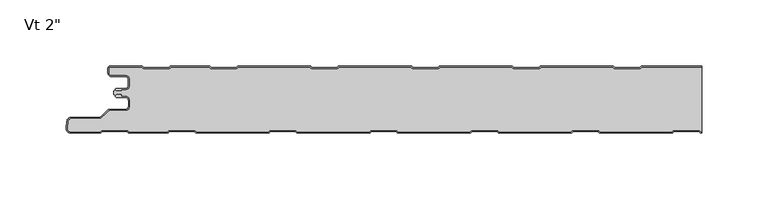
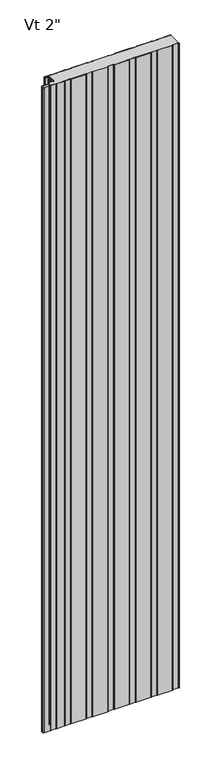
"""IFC4 building model written with IfcOpenShell, lengths in millimetres: plate geometry."""

from ifc_helpers import new_model, si_unit, point, frame, frame_2d, origin, origin_with_axes, place, context, project, spatial, polyline, circle_curve, trimmed, segment, composite_curve, outline, extrude, source, transform, mapped, element, save
from ifc_brep_helpers import plane_surface, cylinder_surface, revolved_surface, advanced_brep


def plate_cf051cfc(model_context):
    return source(origin(), model_context, "Body", "SolidModel", [
        extrude(outline(composite_curve([segment(polyline([(-220.9683, -22.4708833), (-221.9999998, -21.4391835), (-221.9999998, -19.0391835), (-220.9686882, -18.0078718)]), True, "CONTINUOUS"), segment(trimmed(circle_curve(frame_2d((-219.968691, -18.0078659)), 0.9999972), [point((-220.9686882, -18.0078718))], [point((-219.968691, -19.0078631))], True, "CARTESIAN"), True, "CONTINUOUS"), segment(polyline([(-219.968691, -19.0078631), (-215.9684873, -19.0078631), (-215.9684873, -18.0078686), (-213.2762775, -18.0078686)]), True, "CONTINUOUS"), segment(trimmed(circle_curve(frame_2d((-213.2762775, -14.7078729)), 3.2999957), [point((-213.2762775, -18.0078686))], [point((-209.9762818, -14.7078729))], True, "CARTESIAN"), True, "CONTINUOUS"), segment(polyline([(-209.9762818, -14.7078729), (-209.9762818, -10.3078817)]), True, "CONTINUOUS"), segment(trimmed(circle_curve(frame_2d((-213.2762777, -10.3078817)), 3.2999959), [point((-209.9762818, -10.3078817))], [point((-213.2762777, -7.0078858))], True, "CARTESIAN"), True, "CONTINUOUS"), segment(polyline([(-213.2762777, -7.0078858), (-223.6962562, -7.0078858)]), True, "CONTINUOUS"), segment(trimmed(circle_curve(frame_2d((-223.6962562, -5.2378916)), 1.7699942), [point((-223.6962562, -7.0078858))], [point((-225.4662504, -5.2378916))], False, "CARTESIAN"), True, "CONTINUOUS"), segment(polyline([(-225.4662504, -5.2378916), (-225.4662504, -1.0063443), (-200.9659738, -1.0063443), (-199.5803312, -2.2065834), (-180.2051649, -2.2065834), (-178.819532, -1.0063527), (-150.1661166, -1.0063527), (-148.7804836, -2.2065834), (-129.4053173, -2.2065834), (-128.0196844, -1.0063527), (-73.966269, -1.0063527), (-72.580636, -2.2065834), (-53.2054697, -2.2065834), (-51.8198368, -1.0063527), (2.2335786, -1.0063527), (3.6192116, -2.2065834), (22.9943779, -2.2065834), (24.3800108, -1.0063527), (78.4334262, -1.0063527), (79.8190592, -2.2065834), (99.1942255, -2.2065834), (100.5798584, -1.0063527), (154.6332738, -1.0063527), (156.0189068, -2.2065834), (175.3940731, -2.2065834), (176.779706, -1.0063527), (221.9999998, -1.0063527), (221.9999998, -49.7948673), (221.4405499, -49.7948673), (220.2403192, -48.5946366), (200.5209066, -48.5946366), (199.3206759, -49.7948673), (145.2405442, -49.7948673), (144.0403135, -48.5946366), (124.320901, -48.5946366), (123.1206703, -49.7948673), (69.0405385, -49.7948673), (67.8403078, -48.5946366), (48.1208953, -48.5946366), (46.9206646, -49.7948673), (-7.1594672, -49.7948673), (-8.3596979, -48.5946366), (-28.0791104, -48.5946366), (-29.2793411, -49.7948673), (-83.3594729, -49.7948673), (-84.5597036, -48.5946366), (-104.2791161, -48.5946366), (-105.4793468, -49.7948673), (-159.5594786, -49.7948673), (-160.7597093, -48.5946366), (-180.4791218, -48.5946366), (-181.6793525, -49.7948673), (-210.3594843, -49.7948673), (-211.559715, -48.5946366), (-231.2791275, -48.5946366), (-232.479096, -49.7946051), (-254.4521175, -49.7946051)]), True, "CONTINUOUS"), segment(trimmed(circle_curve(frame_2d((-254.4521175, -47.2243658)), 2.5702393), [point((-254.4521175, -49.7946051))], [point((-257.0125697, -47.0002802))], False, "CARTESIAN"), True, "CONTINUOUS"), segment(polyline([(-257.0125697, -47.0002802), (-256.5765707, -42.0184593)]), True, "CONTINUOUS"), segment(trimmed(circle_curve(frame_2d((-253.9198391, -42.4998499)), 2.6999926), [point((-256.5765707, -42.0184593))], [point((-253.9198391, -39.7998573))], False, "CARTESIAN"), True, "CONTINUOUS"), segment(polyline([(-253.9198391, -39.7998573), (-231.8247094, -39.7998573), (-226.3226383, -34.2977862)]), True, "CONTINUOUS"), segment(trimmed(circle_curve(frame_2d((-225.1205606, -35.4998639)), 1.6999946), [point((-226.3226383, -34.2977862))], [point((-225.1205606, -33.7998693))], False, "CARTESIAN"), True, "CONTINUOUS"), segment(polyline([(-225.1205606, -33.7998693), (-213.3096715, -33.7998693)]), True, "CONTINUOUS"), segment(trimmed(circle_curve(frame_2d((-213.3096715, -30.449874)), 3.3499953), [point((-213.3096715, -33.7998693))], [point((-209.9596762, -30.449874))], True, "CARTESIAN"), True, "CONTINUOUS"), segment(polyline([(-209.9596762, -30.449874), (-209.9596762, -26.0498828)]), True, "CONTINUOUS"), segment(trimmed(circle_curve(frame_2d((-213.3096715, -26.0498828)), 3.3499953), [point((-209.9596762, -26.0498828))], [point((-213.3096715, -22.6998875))], True, "CARTESIAN"), True, "CONTINUOUS"), segment(polyline([(-213.3096715, -22.6998875), (-216.0087826, -22.6998875), (-216.0087826, -21.3014086), (-219.767176, -21.3014086)]), True, "CONTINUOUS"), segment(trimmed(circle_curve(frame_2d((-219.7686906, -22.5014053)), 1.1999976), [point((-219.767176, -21.3014086))], [point((-220.9683, -22.4708833))], True, "CARTESIAN"), True, "CONTINUOUS")], self_intersect=False)), origin_with_axes(), (0.0, 0.0, 1.0), 2400.0),
        advanced_brep(
        [(-219.9686911, -17.0015243, 2400.0), (-220.9686883, -18.0015275, 2400.0), (-219.9686911, -19.0015188, 2400.0), (-215.9684874, -19.0015188, 2400.0), (-215.9684874, -18.0015243, 2400.0), (-213.2762776, -18.0015243, 2400.0), (-209.9762819, -14.7015286, 2400.0), (-209.9762819, -10.3015374, 2400.0), (-213.2762774, -7.0015419, 2400.0), (-223.6962563, -7.0015419, 2400.0), (-225.4662505, -5.2315477, 2400.0), (-225.4662505, -1.0, 2400.0), (-200.9659739, -1.0, 2400.0), (-199.5803313, -2.2002391, 2400.0), (-180.205165, -2.2002391, 2400.0), (-178.819532, -1.0000084, 2400.0), (-150.1661166, -1.0000084, 2400.0), (-148.7804837, -2.2002391, 2400.0), (-129.4053174, -2.2002391, 2400.0), (-128.0196844, -1.0000084, 2400.0), (-73.966269, -1.0000084, 2400.0), (-72.5806361, -2.2002391, 2400.0), (-53.2054698, -2.2002391, 2400.0), (-51.8198368, -1.0000084, 2400.0), (2.2335786, -1.0000084, 2400.0), (3.6192115, -2.2002391, 2400.0), (22.9943778, -2.2002391, 2400.0), (24.3800108, -1.0000084, 2400.0), (78.4334262, -1.0000084, 2400.0), (79.8190591, -2.2002391, 2400.0), (99.1942254, -2.2002391, 2400.0), (100.5798584, -1.0000084, 2400.0), (154.6332738, -1.0000084, 2400.0), (156.0189067, -2.2002391, 2400.0), (175.394073, -2.2002391, 2400.0), (176.779706, -1.0000084, 2400.0), (221.9999998, -1.0000084, 2400.0), (221.9999998, -8.4e-06, 2400.0), (176.9288571, -8.4e-06, 2400.0), (176.0122402, -0.3417969, 2400.0), (175.0211926, -1.2002391, 2400.0), (156.3917872, -1.2002391, 2400.0), (155.4007395, -0.3417969, 2400.0), (154.4841226, -8.4e-06, 2400.0), (100.7290095, -8.4e-06, 2400.0), (99.8123926, -0.3417969, 2400.0), (98.821345, -1.2002391, 2400.0), (80.1919396, -1.2002391, 2400.0), (79.2008919, -0.3417969, 2400.0), (78.284275, -8.4e-06, 2400.0), (24.5291619, -8.4e-06, 2400.0), (23.612545, -0.3417969, 2400.0), (22.6214974, -1.2002391, 2400.0), (3.992092, -1.2002391, 2400.0), (3.0010443, -0.3417969, 2400.0), (2.0844274, -8.4e-06, 2400.0), (-51.6706857, -8.4e-06, 2400.0), (-52.5873026, -0.3417969, 2400.0), (-53.5783502, -1.2002391, 2400.0), (-72.2077556, -1.2002391, 2400.0), (-73.1988033, -0.3417969, 2400.0), (-74.1154202, -8.4e-06, 2400.0), (-127.8705333, -8.4e-06, 2400.0), (-128.7871502, -0.3417969, 2400.0), (-129.7781978, -1.2002391, 2400.0), (-148.4076032, -1.2002391, 2400.0), (-149.3986509, -0.3417969, 2400.0), (-150.3152678, -8.4e-06, 2400.0), (-178.6703809, -8.4e-06, 2400.0), (-179.5869978, -0.3417969, 2400.0), (-180.5780454, -1.2002391, 2400.0), (-199.2074508, -1.2002391, 2400.0), (-200.1984985, -0.3417969, 2400.0), (-201.1152068, -8.4e-06, 2400.0), (-225.0662544, 0.0, 2400.0), (-226.4662505, -1.3999962, 2400.0), (-226.4662505, -5.2315477, 2400.0), (-223.6962563, -8.0015419, 2400.0), (-213.2762774, -8.0015419, 2400.0), (-210.9762819, -10.3015374, 2400.0), (-210.9762819, -14.7015286, 2400.0), (-213.2762776, -17.0015243, 2400.0), (-219.9686911, -17.0015243, 0.0), (-213.2762776, -17.0015243, 0.0), (-210.9762819, -14.7015286, 0.0), (-210.9762819, -10.3015374, 0.0), (-213.2762774, -8.0015419, 0.0), (-223.6962563, -8.0015419, 0.0), (-226.4662505, -5.2315477, 0.0), (-226.4662505, -1.3999962, 0.0), (-225.0662544, 0.0, 0.0), (-201.1151154, 0.0, 0.0), (-200.1984985, -0.3417969, 0.0), (-199.2074508, -1.2002391, 0.0), (-180.5780454, -1.2002391, 0.0), (-179.5869978, -0.3417969, 0.0), (-178.6703809, -8.4e-06, 0.0), (-150.3152678, -8.4e-06, 0.0), (-149.3986509, -0.3417969, 0.0), (-148.4076032, -1.2002391, 0.0), (-129.7781978, -1.2002391, 0.0), (-128.7871502, -0.3417969, 0.0), (-127.8705333, -8.4e-06, 0.0), (-74.1154202, -8.4e-06, 0.0), (-73.1988033, -0.3417969, 0.0), (-72.2077556, -1.2002391, 0.0), (-53.5783502, -1.2002391, 0.0), (-52.5873026, -0.3417969, 0.0), (-51.6706857, -8.4e-06, 0.0), (2.0844274, -8.4e-06, 0.0), (3.0010443, -0.3417969, 0.0), (3.992092, -1.2002391, 0.0), (22.6214974, -1.2002391, 0.0), (23.612545, -0.3417969, 0.0), (24.5291619, -8.4e-06, 0.0), (78.284275, -8.4e-06, 0.0), (79.2008919, -0.3417969, 0.0), (80.1919396, -1.2002391, 0.0), (98.821345, -1.2002391, 0.0), (99.8123926, -0.3417969, 0.0), (100.7290095, -8.4e-06, 0.0), (154.4841226, -8.4e-06, 0.0), (155.4007395, -0.3417969, 0.0), (156.3917872, -1.2002391, 0.0), (175.0211926, -1.2002391, 0.0), (176.0122402, -0.3417969, 0.0), (176.9288571, -8.4e-06, 0.0), (221.9999998, -8.4e-06, 0.0), (221.9999998, -1.0000084, 0.0), (176.779706, -1.0000084, 0.0), (175.394073, -2.2002391, 0.0), (156.0189067, -2.2002391, 0.0), (154.6332738, -1.0000084, 0.0), (100.5798584, -1.0000084, 0.0), (99.1942254, -2.2002391, 0.0), (79.8190591, -2.2002391, 0.0), (78.4334262, -1.0000084, 0.0), (24.3800108, -1.0000084, 0.0), (22.9943778, -2.2002391, 0.0), (3.6192115, -2.2002391, 0.0), (2.2335786, -1.0000084, 0.0), (-51.8198368, -1.0000084, 0.0), (-53.2054698, -2.2002391, 0.0), (-72.5806361, -2.2002391, 0.0), (-73.966269, -1.0000084, 0.0), (-128.0196844, -1.0000084, 0.0), (-129.4053174, -2.2002391, 0.0), (-148.7804837, -2.2002391, 0.0), (-150.1661166, -1.0000084, 0.0), (-178.819532, -1.0000084, 0.0), (-180.205165, -2.2002391, 0.0), (-199.5803313, -2.2002391, 0.0), (-200.9659739, -1.0, 0.0), (-225.4662505, -1.0, 0.0), (-225.4662505, -5.2315477, 0.0), (-223.6962563, -7.0015419, 0.0), (-213.2762774, -7.0015419, 0.0), (-209.9762819, -10.3015374, 0.0), (-209.9762819, -14.7015286, 0.0), (-213.2762776, -18.0015243, 0.0), (-215.9684874, -18.0015243, 0.0), (-215.9684874, -19.0015188, 0.0), (-219.9686911, -19.0015188, 0.0), (-220.9686883, -18.0015275, 0.0)],
        [
            (0, 1, circle_curve(frame((-219.9686911, -18.0015215, 2400.0), z_axis=(0.0, 0.0, 1.0), x_axis=(1.0, 0.0, 0.0)), 0.9999973)),
            (1, 2, circle_curve(frame((-219.9686911, -18.0015216, 2400.0), z_axis=(0.0, 0.0, 1.0), x_axis=(1.0, 0.0, 0.0)), 0.9999972)),
            (2, 3),
            (3, 4),
            (4, 5),
            (5, 6, circle_curve(frame((-213.2762776, -14.7015286, 2400.0), z_axis=(0.0, 0.0, 1.0), x_axis=(1.0, 0.0, 0.0)), 3.2999957)),
            (6, 7),
            (7, 8, circle_curve(frame((-213.2762774, -10.3015374, 2400.0), z_axis=(0.0, 0.0, 1.0), x_axis=(1.0, 0.0, 0.0)), 3.2999955)),
            (8, 9),
            (9, 10, circle_curve(frame((-223.6962563, -5.2315477, 2400.0), z_axis=(0.0, 0.0, -1.0), x_axis=(1.0, 0.0, 0.0)), 1.7699942)),
            (10, 11),
            (11, 12),
            (12, 13),
            (13, 14),
            (14, 15),
            (15, 16),
            (16, 17),
            (17, 18),
            (18, 19),
            (19, 20),
            (20, 21),
            (21, 22),
            (22, 23),
            (23, 24),
            (24, 25),
            (25, 26),
            (26, 27),
            (27, 28),
            (28, 29),
            (29, 30),
            (30, 31),
            (31, 32),
            (32, 33),
            (33, 34),
            (34, 35),
            (35, 36),
            (36, 37),
            (37, 38),
            (38, 39, circle_curve(frame((176.9288571, -1.4000056, 2400.0), z_axis=(0.0, 0.0, 1.0), x_axis=(1.0, 0.0, 0.0)), 1.3999972)),
            (39, 40),
            (40, 41),
            (41, 42),
            (42, 43, circle_curve(frame((154.4841226, -1.4000056, 2400.0), z_axis=(0.0, 0.0, 1.0), x_axis=(1.0, 0.0, 0.0)), 1.3999972)),
            (43, 44),
            (44, 45, circle_curve(frame((100.7290095, -1.4000056, 2400.0), z_axis=(0.0, 0.0, 1.0), x_axis=(1.0, 0.0, 0.0)), 1.3999972)),
            (45, 46),
            (46, 47),
            (47, 48),
            (48, 49, circle_curve(frame((78.284275, -1.4000056, 2400.0), z_axis=(0.0, 0.0, 1.0), x_axis=(1.0, 0.0, 0.0)), 1.3999972)),
            (49, 50),
            (50, 51, circle_curve(frame((24.5291619, -1.4000056, 2400.0), z_axis=(0.0, 0.0, 1.0), x_axis=(1.0, 0.0, 0.0)), 1.3999972)),
            (51, 52),
            (52, 53),
            (53, 54),
            (54, 55, circle_curve(frame((2.0844274, -1.4000056, 2400.0), z_axis=(0.0, 0.0, 1.0), x_axis=(1.0, 0.0, 0.0)), 1.3999972)),
            (55, 56),
            (56, 57, circle_curve(frame((-51.6706857, -1.4000056, 2400.0), z_axis=(0.0, 0.0, 1.0), x_axis=(1.0, 0.0, 0.0)), 1.3999972)),
            (57, 58),
            (58, 59),
            (59, 60),
            (60, 61, circle_curve(frame((-74.1154202, -1.4000056, 2400.0), z_axis=(0.0, 0.0, 1.0), x_axis=(1.0, 0.0, 0.0)), 1.3999972)),
            (61, 62),
            (62, 63, circle_curve(frame((-127.8705333, -1.4000056, 2400.0), z_axis=(0.0, 0.0, 1.0), x_axis=(1.0, 0.0, 0.0)), 1.3999972)),
            (63, 64),
            (64, 65),
            (65, 66),
            (66, 67, circle_curve(frame((-150.3152678, -1.4000056, 2400.0), z_axis=(0.0, 0.0, 1.0), x_axis=(1.0, 0.0, 0.0)), 1.3999972)),
            (67, 68),
            (68, 69, circle_curve(frame((-178.6703809, -1.4000056, 2400.0), z_axis=(0.0, 0.0, 1.0), x_axis=(1.0, 0.0, 0.0)), 1.3999972)),
            (69, 70),
            (70, 71),
            (71, 72),
            (72, 73, circle_curve(frame((-201.1151154, -1.4000056, 2400.0), z_axis=(0.0, 0.0, 1.0), x_axis=(1.0, 0.0, 0.0)), 1.3999972)),
            (73, 74),
            (74, 75, circle_curve(frame((-225.0662544, -1.3999962, 2400.0), z_axis=(0.0, 0.0, 1.0), x_axis=(1.0, 0.0, 0.0)), 1.3999962)),
            (75, 76),
            (76, 77, circle_curve(frame((-223.6962563, -5.2315477, 2400.0), z_axis=(0.0, 0.0, 1.0), x_axis=(1.0, 0.0, 0.0)), 2.7699942)),
            (77, 78),
            (78, 79, circle_curve(frame((-213.2762774, -10.3015374, 2400.0), z_axis=(0.0, 0.0, -1.0), x_axis=(1.0, 0.0, 0.0)), 2.2999955)),
            (79, 80),
            (80, 81, circle_curve(frame((-213.2762776, -14.7015286, 2400.0), z_axis=(0.0, 0.0, -1.0), x_axis=(1.0, 0.0, 0.0)), 2.2999957)),
            (81, 0),
            (82, 83),
            (83, 84, circle_curve(frame((-213.2762776, -14.7015286, 0.0), z_axis=(0.0, 0.0, 1.0), x_axis=(1.0, 0.0, 0.0)), 2.2999957)),
            (84, 85),
            (85, 86, circle_curve(frame((-213.2762774, -10.3015374, 0.0), z_axis=(0.0, 0.0, 1.0), x_axis=(1.0, 0.0, 0.0)), 2.2999955)),
            (86, 87),
            (87, 88, circle_curve(frame((-223.6962563, -5.2315477, 0.0), z_axis=(0.0, 0.0, -1.0), x_axis=(1.0, 0.0, 0.0)), 2.7699942)),
            (88, 89),
            (89, 90, circle_curve(frame((-225.0662544, -1.3999962, 0.0), z_axis=(0.0, 0.0, -1.0), x_axis=(1.0, 0.0, 0.0)), 1.3999962)),
            (90, 91),
            (91, 92, circle_curve(frame((-201.1151154, -1.4000056, 0.0), z_axis=(0.0, 0.0, -1.0), x_axis=(1.0, 0.0, 0.0)), 1.3999972)),
            (92, 93),
            (93, 94),
            (94, 95),
            (95, 96, circle_curve(frame((-178.6703809, -1.4000056, 0.0), z_axis=(0.0, 0.0, -1.0), x_axis=(1.0, 0.0, 0.0)), 1.3999972)),
            (96, 97),
            (97, 98, circle_curve(frame((-150.3152678, -1.4000056, 0.0), z_axis=(0.0, 0.0, -1.0), x_axis=(1.0, 0.0, 0.0)), 1.3999972)),
            (98, 99),
            (99, 100),
            (100, 101),
            (101, 102, circle_curve(frame((-127.8705333, -1.4000056, 0.0), z_axis=(0.0, 0.0, -1.0), x_axis=(1.0, 0.0, 0.0)), 1.3999972)),
            (102, 103),
            (103, 104, circle_curve(frame((-74.1154202, -1.4000056, 0.0), z_axis=(0.0, 0.0, -1.0), x_axis=(1.0, 0.0, 0.0)), 1.3999972)),
            (104, 105),
            (105, 106),
            (106, 107),
            (107, 108, circle_curve(frame((-51.6706857, -1.4000056, 0.0), z_axis=(0.0, 0.0, -1.0), x_axis=(1.0, 0.0, 0.0)), 1.3999972)),
            (108, 109),
            (109, 110, circle_curve(frame((2.0844274, -1.4000056, 0.0), z_axis=(0.0, 0.0, -1.0), x_axis=(1.0, 0.0, 0.0)), 1.3999972)),
            (110, 111),
            (111, 112),
            (112, 113),
            (113, 114, circle_curve(frame((24.5291619, -1.4000056, 0.0), z_axis=(0.0, 0.0, -1.0), x_axis=(1.0, 0.0, 0.0)), 1.3999972)),
            (114, 115),
            (115, 116, circle_curve(frame((78.284275, -1.4000056, 0.0), z_axis=(0.0, 0.0, -1.0), x_axis=(1.0, 0.0, 0.0)), 1.3999972)),
            (116, 117),
            (117, 118),
            (118, 119),
            (119, 120, circle_curve(frame((100.7290095, -1.4000056, 0.0), z_axis=(0.0, 0.0, -1.0), x_axis=(1.0, 0.0, 0.0)), 1.3999972)),
            (120, 121),
            (121, 122, circle_curve(frame((154.4841226, -1.4000056, 0.0), z_axis=(0.0, 0.0, -1.0), x_axis=(1.0, 0.0, 0.0)), 1.3999972)),
            (122, 123),
            (123, 124),
            (124, 125),
            (125, 126, circle_curve(frame((176.9288571, -1.4000056, 0.0), z_axis=(0.0, 0.0, -1.0), x_axis=(1.0, 0.0, 0.0)), 1.3999972)),
            (126, 127),
            (127, 128),
            (128, 129),
            (129, 130),
            (130, 131),
            (131, 132),
            (132, 133),
            (133, 134),
            (134, 135),
            (135, 136),
            (136, 137),
            (137, 138),
            (138, 139),
            (139, 140),
            (140, 141),
            (141, 142),
            (142, 143),
            (143, 144),
            (144, 145),
            (145, 146),
            (146, 147),
            (147, 148),
            (148, 149),
            (149, 150),
            (150, 151),
            (151, 152),
            (152, 153),
            (153, 154),
            (154, 155, circle_curve(frame((-223.6962563, -5.2315477, 0.0), z_axis=(0.0, 0.0, 1.0), x_axis=(1.0, 0.0, 0.0)), 1.7699942)),
            (155, 156),
            (156, 157, circle_curve(frame((-213.2762774, -10.3015374, 0.0), z_axis=(0.0, 0.0, -1.0), x_axis=(1.0, 0.0, 0.0)), 3.2999955)),
            (157, 158),
            (158, 159, circle_curve(frame((-213.2762776, -14.7015286, 0.0), z_axis=(0.0, 0.0, -1.0), x_axis=(1.0, 0.0, 0.0)), 3.2999957)),
            (159, 160),
            (160, 161),
            (161, 162),
            (162, 163, circle_curve(frame((-219.9686911, -18.0015216, 0.0), z_axis=(0.0, 0.0, -1.0), x_axis=(1.0, 0.0, 0.0)), 0.9999972)),
            (163, 82, circle_curve(frame((-219.9686911, -18.0015215, 0.0), z_axis=(0.0, 0.0, -1.0), x_axis=(1.0, 0.0, 0.0)), 0.9999973)),
            (36, 128),
            (127, 37),
            (81, 83),
            (82, 0),
            (80, 84),
            (79, 85),
            (78, 86),
            (77, 87),
            (76, 88),
            (75, 89),
            (74, 90),
            (73, 91),
            (72, 92),
            (71, 93),
            (70, 94),
            (69, 95),
            (68, 96),
            (67, 97),
            (66, 98),
            (65, 99),
            (64, 100),
            (63, 101),
            (62, 102),
            (61, 103),
            (60, 104),
            (59, 105),
            (58, 106),
            (57, 107),
            (56, 108),
            (55, 109),
            (54, 110),
            (53, 111),
            (52, 112),
            (51, 113),
            (50, 114),
            (49, 115),
            (48, 116),
            (47, 117),
            (46, 118),
            (45, 119),
            (44, 120),
            (43, 121),
            (42, 122),
            (41, 123),
            (40, 124),
            (39, 125),
            (38, 126),
            (35, 129),
            (34, 130),
            (33, 131),
            (32, 132),
            (31, 133),
            (30, 134),
            (29, 135),
            (28, 136),
            (27, 137),
            (26, 138),
            (25, 139),
            (24, 140),
            (23, 141),
            (22, 142),
            (21, 143),
            (20, 144),
            (19, 145),
            (18, 146),
            (17, 147),
            (16, 148),
            (15, 149),
            (14, 150),
            (13, 151),
            (12, 152),
            (11, 153),
            (10, 154),
            (9, 155),
            (8, 156),
            (7, 157),
            (6, 158),
            (5, 159),
            (4, 160),
            (3, 161),
            (2, 162),
            (1, 163),
        ],
        [
            plane_surface(frame((286.0000002, -8.4e-06, 2400.0), z_axis=(0.0, 0.0, 1.0), x_axis=(0.0, 1.0, 0.0))),
            plane_surface(frame((286.0000002, -8.4e-06, 0.0), z_axis=(0.0, 0.0, -1.0), x_axis=(0.0, 1.0, 0.0))),
            plane_surface(frame((221.9999998, -60.8000084, 2400.0), z_axis=(1.0, 0.0, 0.0), x_axis=(0.0, 0.0, -1.0))),
            plane_surface(frame((-219.9686911, -17.0015243, 2400.0), z_axis=(0.0, 1.0, 0.0), x_axis=(0.0, 0.0, -1.0))),
            revolved_surface(polyline([(-210.97628189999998, -14.7015286, 0.0), (-210.97628189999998, -14.7015286, 2400.0)]), (-213.2762776, -14.7015286, 2400.0), (0.0, 0.0, -1.0)),
            plane_surface(frame((-210.9762819, -14.7015286, 2400.0), z_axis=(-1.0, 0.0, 0.0), x_axis=(0.0, 0.0, -1.0))),
            revolved_surface(polyline([(-210.9762819, -10.3015374, 0.0), (-210.9762819, -10.3015374, 2400.0)]), (-213.2762774, -10.3015374, 2400.0), (0.0, 0.0, -1.0)),
            plane_surface(frame((-213.2762774, -8.0015419, 2400.0), z_axis=(0.0, -1.0, 0.0), x_axis=(0.0, 0.0, -1.0))),
            cylinder_surface(frame((-223.6962563, -5.2315477, 2400.0), z_axis=(0.0, 0.0, 1.0), x_axis=(1.0, 0.0, 0.0)), 2.7699942),
            plane_surface(frame((-226.4662505, -5.2315477, 2400.0), z_axis=(-1.0, 0.0, 0.0), x_axis=(0.0, 0.0, -1.0))),
            cylinder_surface(frame((-225.0662544, -1.3999962, 2400.0), z_axis=(0.0, 0.0, 1.0), x_axis=(1.0, 0.0, 0.0)), 1.3999962),
            plane_surface(frame((-225.0662544, 0.0, 2400.0), z_axis=(0.0, 1.0, 0.0), x_axis=(0.0, 0.0, -1.0))),
            cylinder_surface(frame((-201.1151154, -1.4000056, 2400.0), z_axis=(0.0, 0.0, 1.0), x_axis=(1.0, 0.0, 0.0)), 1.3999972),
            plane_surface(frame((-200.1984985, -0.3417969, 2400.0), z_axis=(0.6547276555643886, 0.755864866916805, 0.0), x_axis=(0.0, 0.0, -1.0))),
            plane_surface(frame((-189.8927481, -1.2002391, 2400.0), z_axis=(0.0, 1.0, 0.0), x_axis=(0.0, 0.0, -1.0))),
            plane_surface(frame((-180.5780454, -1.2002391, 2400.0), z_axis=(-0.6547276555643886, 0.755864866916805, 0.0), x_axis=(0.0, 0.0, -1.0))),
            cylinder_surface(frame((-178.6703809, -1.4000056, 2400.0), z_axis=(0.0, 0.0, 1.0), x_axis=(1.0, 0.0, 0.0)), 1.3999972),
            plane_surface(frame((-178.6703809, -8.4e-06, 2400.0), z_axis=(0.0, 1.0, 0.0), x_axis=(0.0, 0.0, -1.0))),
            cylinder_surface(frame((-150.3152678, -1.4000056, 2400.0), z_axis=(0.0, 0.0, 1.0), x_axis=(1.0, 0.0, 0.0)), 1.3999972),
            plane_surface(frame((-149.3986509, -0.3417969, 2400.0), z_axis=(0.6547276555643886, 0.755864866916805, 0.0), x_axis=(0.0, 0.0, -1.0))),
            plane_surface(frame((-139.0929005, -1.2002391, 2400.0), z_axis=(0.0, 1.0, 0.0), x_axis=(0.0, 0.0, -1.0))),
            plane_surface(frame((-129.7781978, -1.2002391, 2400.0), z_axis=(-0.6547276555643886, 0.755864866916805, 0.0), x_axis=(0.0, 0.0, -1.0))),
            cylinder_surface(frame((-127.8705333, -1.4000056, 2400.0), z_axis=(0.0, 0.0, 1.0), x_axis=(1.0, 0.0, 0.0)), 1.3999972),
            plane_surface(frame((-127.8705333, -8.4e-06, 2400.0), z_axis=(0.0, 1.0, 0.0), x_axis=(0.0, 0.0, -1.0))),
            cylinder_surface(frame((-74.1154202, -1.4000056, 2400.0), z_axis=(0.0, 0.0, 1.0), x_axis=(1.0, 0.0, 0.0)), 1.3999972),
            plane_surface(frame((-73.1988033, -0.3417969, 2400.0), z_axis=(0.6547276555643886, 0.755864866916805, 0.0), x_axis=(0.0, 0.0, -1.0))),
            plane_surface(frame((-62.8930529, -1.2002391, 2400.0), z_axis=(0.0, 1.0, 0.0), x_axis=(0.0, 0.0, -1.0))),
            plane_surface(frame((-53.5783502, -1.2002391, 2400.0), z_axis=(-0.6547276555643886, 0.755864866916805, 0.0), x_axis=(0.0, 0.0, -1.0))),
            cylinder_surface(frame((-51.6706857, -1.4000056, 2400.0), z_axis=(0.0, 0.0, 1.0), x_axis=(1.0, 0.0, 0.0)), 1.3999972),
            plane_surface(frame((-51.6706857, -8.4e-06, 2400.0), z_axis=(0.0, 1.0, 0.0), x_axis=(0.0, 0.0, -1.0))),
            cylinder_surface(frame((2.0844274, -1.4000056, 2400.0), z_axis=(0.0, 0.0, 1.0), x_axis=(1.0, 0.0, 0.0)), 1.3999972),
            plane_surface(frame((3.0010443, -0.3417969, 2400.0), z_axis=(0.6547276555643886, 0.755864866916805, 0.0), x_axis=(0.0, 0.0, -1.0))),
            plane_surface(frame((13.3067947, -1.2002391, 2400.0), z_axis=(0.0, 1.0, 0.0), x_axis=(0.0, 0.0, -1.0))),
            plane_surface(frame((22.6214974, -1.2002391, 2400.0), z_axis=(-0.6547276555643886, 0.755864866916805, 0.0), x_axis=(0.0, 0.0, -1.0))),
            cylinder_surface(frame((24.5291619, -1.4000056, 2400.0), z_axis=(0.0, 0.0, 1.0), x_axis=(1.0, 0.0, 0.0)), 1.3999972),
            plane_surface(frame((24.5291619, -8.4e-06, 2400.0), z_axis=(0.0, 1.0, 0.0), x_axis=(0.0, 0.0, -1.0))),
            cylinder_surface(frame((78.284275, -1.4000056, 2400.0), z_axis=(0.0, 0.0, 1.0), x_axis=(1.0, 0.0, 0.0)), 1.3999972),
            plane_surface(frame((79.2008919, -0.3417969, 2400.0), z_axis=(0.6547276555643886, 0.755864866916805, 0.0), x_axis=(0.0, 0.0, -1.0))),
            plane_surface(frame((89.5066423, -1.2002391, 2400.0), z_axis=(0.0, 1.0, 0.0), x_axis=(0.0, 0.0, -1.0))),
            plane_surface(frame((98.821345, -1.2002391, 2400.0), z_axis=(-0.6547276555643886, 0.755864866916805, 0.0), x_axis=(0.0, 0.0, -1.0))),
            cylinder_surface(frame((100.7290095, -1.4000056, 2400.0), z_axis=(0.0, 0.0, 1.0), x_axis=(1.0, 0.0, 0.0)), 1.3999972),
            plane_surface(frame((100.7290095, -8.4e-06, 2400.0), z_axis=(0.0, 1.0, 0.0), x_axis=(0.0, 0.0, -1.0))),
            cylinder_surface(frame((154.4841226, -1.4000056, 2400.0), z_axis=(0.0, 0.0, 1.0), x_axis=(1.0, 0.0, 0.0)), 1.3999972),
            plane_surface(frame((155.4007395, -0.3417969, 2400.0), z_axis=(0.6547276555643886, 0.755864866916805, 0.0), x_axis=(0.0, 0.0, -1.0))),
            plane_surface(frame((165.7064899, -1.2002391, 2400.0), z_axis=(0.0, 1.0, 0.0), x_axis=(0.0, 0.0, -1.0))),
            plane_surface(frame((175.0211926, -1.2002391, 2400.0), z_axis=(-0.6547276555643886, 0.755864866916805, 0.0), x_axis=(0.0, 0.0, -1.0))),
            cylinder_surface(frame((176.9288571, -1.4000056, 2400.0), z_axis=(0.0, 0.0, 1.0), x_axis=(1.0, 0.0, 0.0)), 1.3999972),
            plane_surface(frame((176.9288571, -8.4e-06, 2400.0), z_axis=(0.0, 1.0, 0.0), x_axis=(0.0, 0.0, -1.0))),
            plane_surface(frame((230.8331214, -1.0000084, 2400.0), z_axis=(0.0, -1.0, 0.0), x_axis=(0.0, 0.0, -1.0))),
            plane_surface(frame((176.779706, -1.0000084, 2400.0), z_axis=(0.6547276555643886, -0.755864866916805, 0.0), x_axis=(0.0, 0.0, -1.0))),
            plane_surface(frame((175.394073, -2.2002391, 2400.0), z_axis=(0.0, -1.0, 0.0), x_axis=(0.0, 0.0, -1.0))),
            plane_surface(frame((156.0189067, -2.2002391, 2400.0), z_axis=(-0.6547276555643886, -0.755864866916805, 0.0), x_axis=(0.0, 0.0, -1.0))),
            plane_surface(frame((154.6332738, -1.0000084, 2400.0), z_axis=(0.0, -1.0, 0.0), x_axis=(0.0, 0.0, -1.0))),
            plane_surface(frame((100.5798584, -1.0000084, 2400.0), z_axis=(0.6547276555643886, -0.755864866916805, 0.0), x_axis=(0.0, 0.0, -1.0))),
            plane_surface(frame((99.1942254, -2.2002391, 2400.0), z_axis=(0.0, -1.0, 0.0), x_axis=(0.0, 0.0, -1.0))),
            plane_surface(frame((79.8190591, -2.2002391, 2400.0), z_axis=(-0.6547276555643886, -0.755864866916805, 0.0), x_axis=(0.0, 0.0, -1.0))),
            plane_surface(frame((78.4334262, -1.0000084, 2400.0), z_axis=(0.0, -1.0, 0.0), x_axis=(0.0, 0.0, -1.0))),
            plane_surface(frame((24.3800108, -1.0000084, 2400.0), z_axis=(0.6547276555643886, -0.755864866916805, 0.0), x_axis=(0.0, 0.0, -1.0))),
            plane_surface(frame((22.9943778, -2.2002391, 2400.0), z_axis=(0.0, -1.0, 0.0), x_axis=(0.0, 0.0, -1.0))),
            plane_surface(frame((3.6192115, -2.2002391, 2400.0), z_axis=(-0.6547276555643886, -0.755864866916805, 0.0), x_axis=(0.0, 0.0, -1.0))),
            plane_surface(frame((2.2335786, -1.0000084, 2400.0), z_axis=(0.0, -1.0, 0.0), x_axis=(0.0, 0.0, -1.0))),
            plane_surface(frame((-51.8198368, -1.0000084, 2400.0), z_axis=(0.6547276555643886, -0.755864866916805, 0.0), x_axis=(0.0, 0.0, -1.0))),
            plane_surface(frame((-53.2054698, -2.2002391, 2400.0), z_axis=(0.0, -1.0, 0.0), x_axis=(0.0, 0.0, -1.0))),
            plane_surface(frame((-72.5806361, -2.2002391, 2400.0), z_axis=(-0.6547276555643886, -0.755864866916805, 0.0), x_axis=(0.0, 0.0, -1.0))),
            plane_surface(frame((-73.966269, -1.0000084, 2400.0), z_axis=(0.0, -1.0, 0.0), x_axis=(0.0, 0.0, -1.0))),
            plane_surface(frame((-128.0196844, -1.0000084, 2400.0), z_axis=(0.6547276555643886, -0.755864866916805, 0.0), x_axis=(0.0, 0.0, -1.0))),
            plane_surface(frame((-129.4053174, -2.2002391, 2400.0), z_axis=(0.0, -1.0, 0.0), x_axis=(0.0, 0.0, -1.0))),
            plane_surface(frame((-148.7804837, -2.2002391, 2400.0), z_axis=(-0.6547276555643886, -0.755864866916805, 0.0), x_axis=(0.0, 0.0, -1.0))),
            plane_surface(frame((-150.1661166, -1.0000084, 2400.0), z_axis=(0.0, -1.0, 0.0), x_axis=(0.0, 0.0, -1.0))),
            plane_surface(frame((-178.819532, -1.0000084, 2400.0), z_axis=(0.6547276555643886, -0.755864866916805, 0.0), x_axis=(0.0, 0.0, -1.0))),
            plane_surface(frame((-180.205165, -2.2002391, 2400.0), z_axis=(0.0, -1.0, 0.0), x_axis=(0.0, 0.0, -1.0))),
            plane_surface(frame((-199.5803313, -2.2002391, 2400.0), z_axis=(-0.6547276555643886, -0.755864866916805, 0.0), x_axis=(0.0, 0.0, -1.0))),
            plane_surface(frame((-200.9659739, -1.0, 2400.0), z_axis=(0.0, -1.0, 0.0), x_axis=(0.0, 0.0, -1.0))),
            plane_surface(frame((-225.4662505, -1.0, 2400.0), z_axis=(1.0, 0.0, 0.0), x_axis=(0.0, 0.0, -1.0))),
            revolved_surface(polyline([(-221.92626209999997, -5.2315477, 0.0), (-221.92626209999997, -5.2315477, 2400.0)]), (-223.6962563, -5.2315477, 2400.0), (0.0, 0.0, -1.0)),
            plane_surface(frame((-223.6962563, -7.0015419, 2400.0), z_axis=(0.0, 1.0, 0.0), x_axis=(0.0, 0.0, -1.0))),
            cylinder_surface(frame((-213.2762774, -10.3015374, 2400.0), z_axis=(0.0, 0.0, 1.0), x_axis=(1.0, 0.0, 0.0)), 3.2999955),
            plane_surface(frame((-209.9762819, -10.3015374, 2400.0), z_axis=(1.0, 0.0, 0.0), x_axis=(0.0, 0.0, -1.0))),
            cylinder_surface(frame((-213.2762776, -14.7015286, 2400.0), z_axis=(0.0, 0.0, 1.0), x_axis=(1.0, 0.0, 0.0)), 3.2999957),
            plane_surface(frame((-213.2762776, -18.0015243, 2400.0), z_axis=(0.0, -1.0, 0.0), x_axis=(0.0, 0.0, -1.0))),
            plane_surface(frame((-215.9684874, -18.0015243, 2400.0), z_axis=(1.0, 0.0, 0.0), x_axis=(0.0, 0.0, -1.0))),
            plane_surface(frame((-215.9684874, -19.0015188, 2400.0), z_axis=(0.0, -1.0, 0.0), x_axis=(0.0, 0.0, -1.0))),
            cylinder_surface(frame((-219.9686911, -18.0015216, 2400.0), z_axis=(0.0, 0.0, 1.0), x_axis=(1.0, 0.0, 0.0)), 0.9999972),
            cylinder_surface(frame((-219.9686911, -18.0015215, 2400.0), z_axis=(0.0, 0.0, 1.0), x_axis=(1.0, 0.0, 0.0)), 0.9999973),
        ],
        [
            (0, [[1, 2, 3, 4, 5, 6, 7, 8, 9, 10, 11, 12, 13, 14, 15, 16, 17, 18, 19, 20, 21, 22, 23, 24, 25, 26, 27, 28, 29, 30, 31, 32, 33, 34, 35, 36, 37, 38, 39, 40, 41, 42, 43, 44, 45, 46, 47, 48, 49, 50, 51, 52, 53, 54, 55, 56, 57, 58, 59, 60, 61, 62, 63, 64, 65, 66, 67, 68, 69, 70, 71, 72, 73, 74, 75, 76, 77, 78, 79, 80, 81, 82]]),
            (1, [[83, 84, 85, 86, 87, 88, 89, 90, 91, 92, 93, 94, 95, 96, 97, 98, 99, 100, 101, 102, 103, 104, 105, 106, 107, 108, 109, 110, 111, 112, 113, 114, 115, 116, 117, 118, 119, 120, 121, 122, 123, 124, 125, 126, 127, 128, 129, 130, 131, 132, 133, 134, 135, 136, 137, 138, 139, 140, 141, 142, 143, 144, 145, 146, 147, 148, 149, 150, 151, 152, 153, 154, 155, 156, 157, 158, 159, 160, 161, 162, 163, 164]]),
            (2, [[165, -128, 166, -37]]),
            (3, [[167, -83, 168, -82]]),
            (4, [[169, -84, -167, -81]]),
            (5, [[170, -85, -169, -80]]),
            (6, [[171, -86, -170, -79]]),
            (7, [[172, -87, -171, -78]]),
            (8, [[173, -88, -172, -77]]),
            (9, [[174, -89, -173, -76]]),
            (10, [[175, -90, -174, -75]]),
            (11, [[176, -91, -175, -74]]),
            (12, [[177, -92, -176, -73]]),
            (13, [[178, -93, -177, -72]]),
            (14, [[179, -94, -178, -71]]),
            (15, [[180, -95, -179, -70]]),
            (16, [[181, -96, -180, -69]]),
            (17, [[182, -97, -181, -68]]),
            (18, [[183, -98, -182, -67]]),
            (19, [[184, -99, -183, -66]]),
            (20, [[185, -100, -184, -65]]),
            (21, [[186, -101, -185, -64]]),
            (22, [[187, -102, -186, -63]]),
            (23, [[188, -103, -187, -62]]),
            (24, [[189, -104, -188, -61]]),
            (25, [[190, -105, -189, -60]]),
            (26, [[191, -106, -190, -59]]),
            (27, [[192, -107, -191, -58]]),
            (28, [[193, -108, -192, -57]]),
            (29, [[194, -109, -193, -56]]),
            (30, [[195, -110, -194, -55]]),
            (31, [[196, -111, -195, -54]]),
            (32, [[197, -112, -196, -53]]),
            (33, [[198, -113, -197, -52]]),
            (34, [[199, -114, -198, -51]]),
            (35, [[200, -115, -199, -50]]),
            (36, [[201, -116, -200, -49]]),
            (37, [[202, -117, -201, -48]]),
            (38, [[203, -118, -202, -47]]),
            (39, [[204, -119, -203, -46]]),
            (40, [[205, -120, -204, -45]]),
            (41, [[206, -121, -205, -44]]),
            (42, [[207, -122, -206, -43]]),
            (43, [[208, -123, -207, -42]]),
            (44, [[209, -124, -208, -41]]),
            (45, [[210, -125, -209, -40]]),
            (46, [[211, -126, -210, -39]]),
            (47, [[-38, -166, -127, -211]]),
            (48, [[-129, -165, -36, 212]]),
            (49, [[213, -130, -212, -35]]),
            (50, [[214, -131, -213, -34]]),
            (51, [[215, -132, -214, -33]]),
            (52, [[216, -133, -215, -32]]),
            (53, [[217, -134, -216, -31]]),
            (54, [[218, -135, -217, -30]]),
            (55, [[219, -136, -218, -29]]),
            (56, [[220, -137, -219, -28]]),
            (57, [[221, -138, -220, -27]]),
            (58, [[222, -139, -221, -26]]),
            (59, [[223, -140, -222, -25]]),
            (60, [[224, -141, -223, -24]]),
            (61, [[225, -142, -224, -23]]),
            (62, [[226, -143, -225, -22]]),
            (63, [[227, -144, -226, -21]]),
            (64, [[228, -145, -227, -20]]),
            (65, [[229, -146, -228, -19]]),
            (66, [[230, -147, -229, -18]]),
            (67, [[231, -148, -230, -17]]),
            (68, [[232, -149, -231, -16]]),
            (69, [[233, -150, -232, -15]]),
            (70, [[234, -151, -233, -14]]),
            (71, [[235, -152, -234, -13]]),
            (72, [[236, -153, -235, -12]]),
            (73, [[237, -154, -236, -11]]),
            (74, [[238, -155, -237, -10]]),
            (75, [[239, -156, -238, -9]]),
            (76, [[240, -157, -239, -8]]),
            (77, [[241, -158, -240, -7]]),
            (78, [[242, -159, -241, -6]]),
            (79, [[243, -160, -242, -5]]),
            (80, [[244, -161, -243, -4]]),
            (81, [[245, -162, -244, -3]]),
            (82, [[246, -163, -245, -2]]),
            (83, [[-168, -164, -246, -1]]),
        ],
    ),
        extrude(outline(composite_curve([segment(polyline([(-232.6415932, -50.7997462), (-254.4521175, -50.7997462)]), True, "CONTINUOUS"), segment(trimmed(circle_curve(frame_2d((-254.4521175, -47.2295069)), 3.5702393), [point((-254.4521175, -50.7997462))], [point((-258.0087619, -46.9182365))], False, "CARTESIAN"), True, "CONTINUOUS"), segment(polyline([(-258.0087619, -46.9182365), (-257.5690674, -41.8941899)]), True, "CONTINUOUS"), segment(trimmed(circle_curve(frame_2d((-253.9198391, -42.504991)), 3.6999926), [point((-257.5690674, -41.8941899))], [point((-253.9198391, -38.8049984))], False, "CARTESIAN"), True, "CONTINUOUS"), segment(polyline([(-253.9198391, -38.8049984), (-232.7773995, -38.8049984)]), True, "CONTINUOUS"), segment(trimmed(circle_curve(frame_2d((-232.7773995, -37.505001)), 1.2999974), [point((-232.7773995, -38.8049984))], [point((-231.8581626, -38.424238))], True, "CARTESIAN"), True, "CONTINUOUS"), segment(polyline([(-231.8581626, -38.424238), (-227.0297451, -33.5958205)]), True, "CONTINUOUS"), segment(trimmed(circle_curve(frame_2d((-225.1205606, -35.505005)), 2.6999946), [point((-227.0297451, -33.5958205))], [point((-225.1205606, -32.8050104))], False, "CARTESIAN"), True, "CONTINUOUS"), segment(polyline([(-225.1205606, -32.8050104), (-213.3096715, -32.8050104)]), True, "CONTINUOUS"), segment(trimmed(circle_curve(frame_2d((-213.3096715, -30.4550151)), 2.3499953), [point((-213.3096715, -32.8050104))], [point((-210.9596762, -30.4550151))], True, "CARTESIAN"), True, "CONTINUOUS"), segment(polyline([(-210.9596762, -30.4550151), (-210.9596762, -26.0550239)]), True, "CONTINUOUS"), segment(trimmed(circle_curve(frame_2d((-213.3096715, -26.0550239)), 2.3499953), [point((-210.9596762, -26.0550239))], [point((-213.3096715, -23.7050286))], True, "CARTESIAN"), True, "CONTINUOUS"), segment(polyline([(-213.3096715, -23.7050286), (-219.8289777, -23.7050286)]), True, "CONTINUOUS"), segment(trimmed(circle_curve(frame_2d((-219.7686906, -22.5065463)), 1.1999976), [point((-219.8289777, -23.7050286))], [point((-220.9683, -22.4760244))], False, "CARTESIAN"), True, "CONTINUOUS"), segment(trimmed(circle_curve(frame_2d((-219.7686906, -22.5065463)), 1.1999976), [point((-220.9683, -22.4760244))], [point((-219.767176, -21.3065497))], False, "CARTESIAN"), True, "CONTINUOUS"), segment(polyline([(-219.767176, -21.3065497), (-216.0087826, -21.3065497), (-216.0087826, -22.7050286), (-213.3096715, -22.7050286)]), True, "CONTINUOUS"), segment(trimmed(circle_curve(frame_2d((-213.3096715, -26.0550239)), 3.3499953), [point((-213.3096715, -22.7050286))], [point((-209.9596762, -26.0550239))], False, "CARTESIAN"), True, "CONTINUOUS"), segment(polyline([(-209.9596762, -26.0550239), (-209.9596762, -30.4550151)]), True, "CONTINUOUS"), segment(trimmed(circle_curve(frame_2d((-213.3096715, -30.4550151)), 3.3499953), [point((-209.9596762, -30.4550151))], [point((-213.3096715, -33.8050104))], False, "CARTESIAN"), True, "CONTINUOUS"), segment(polyline([(-213.3096715, -33.8050104), (-225.1205606, -33.8050104)]), True, "CONTINUOUS"), segment(trimmed(circle_curve(frame_2d((-225.1205606, -35.505005)), 1.6999946), [point((-225.1205606, -33.8050104))], [point((-226.3226383, -34.3029273))], True, "CARTESIAN"), True, "CONTINUOUS"), segment(polyline([(-226.3226383, -34.3029273), (-231.8247094, -39.8049984), (-253.9198391, -39.8049984)]), True, "CONTINUOUS"), segment(trimmed(circle_curve(frame_2d((-253.9198391, -42.504991)), 2.6999926), [point((-253.9198391, -39.8049984))], [point((-256.5765707, -42.0236004))], True, "CARTESIAN"), True, "CONTINUOUS"), segment(polyline([(-256.5765707, -42.0236004), (-257.0125697, -47.0054212)]), True, "CONTINUOUS"), segment(trimmed(circle_curve(frame_2d((-254.4521175, -47.2295069)), 2.5702393), [point((-257.0125697, -47.0054212))], [point((-254.4521175, -49.7997462))], True, "CARTESIAN"), True, "CONTINUOUS"), segment(polyline([(-254.4521175, -49.7997462), (-232.479096, -49.7997462), (-231.2791275, -48.5997777), (-211.559715, -48.5997777), (-210.3594843, -49.8000084), (-181.6793525, -49.8000084), (-180.4791218, -48.5997777), (-160.7597093, -48.5997777), (-159.5594786, -49.8000084), (-105.4793468, -49.8000084), (-104.2791161, -48.5997777), (-84.5597036, -48.5997777), (-83.3594729, -49.8000084), (-29.2793411, -49.8000084), (-28.0791104, -48.5997777), (-8.3596979, -48.5997777), (-7.1594672, -49.8000084), (46.9206646, -49.8000084), (48.1208953, -48.5997777), (67.8403078, -48.5997777), (69.0405385, -49.8000084), (123.1206703, -49.8000084), (124.320901, -48.5997777), (144.0403135, -48.5997777), (145.2405442, -49.8000084), (199.3206759, -49.8000084), (200.5209066, -48.5997777), (220.2403192, -48.5997777), (221.4405499, -49.8000084), (221.9999998, -49.8000084), (221.9999998, -50.8000084), (221.6098268, -50.8000084)]), True, "CONTINUOUS"), segment(trimmed(circle_curve(frame_2d((221.6021734, -49.4000321)), 1.3999972), [point((221.6098268, -50.8000084))], [point((220.5581226, -50.3327432))], False, "CARTESIAN"), True, "CONTINUOUS"), segment(polyline([(220.5581226, -50.3327432), (219.825157, -49.5997777), (200.9344878, -49.5997777), (200.2015432, -50.3327223)]), True, "CONTINUOUS"), segment(trimmed(circle_curve(frame_2d((199.1574924, -49.4000112)), 1.3999972), [point((200.2015432, -50.3327223))], [point((199.1574924, -50.8000084))], False, "CARTESIAN"), True, "CONTINUOUS"), segment(polyline([(199.1574924, -50.8000084), (145.4099792, -50.8000084)]), True, "CONTINUOUS"), segment(trimmed(circle_curve(frame_2d((145.4023258, -49.4000321)), 1.3999972), [point((145.4099792, -50.8000084))], [point((144.358275, -50.3327432))], False, "CARTESIAN"), True, "CONTINUOUS"), segment(polyline([(144.358275, -50.3327432), (143.6253094, -49.5997777), (124.7346402, -49.5997777), (124.0016956, -50.3327223)]), True, "CONTINUOUS"), segment(trimmed(circle_curve(frame_2d((122.9576448, -49.4000112)), 1.3999972), [point((124.0016956, -50.3327223))], [point((122.9576448, -50.8000084))], False, "CARTESIAN"), True, "CONTINUOUS"), segment(polyline([(122.9576448, -50.8000084), (69.2101316, -50.8000084)]), True, "CONTINUOUS"), segment(trimmed(circle_curve(frame_2d((69.2024782, -49.4000321)), 1.3999972), [point((69.2101316, -50.8000084))], [point((68.1584274, -50.3327432))], False, "CARTESIAN"), True, "CONTINUOUS"), segment(polyline([(68.1584274, -50.3327432), (67.4254618, -49.5997777), (48.5347926, -49.5997777), (47.801848, -50.3327223)]), True, "CONTINUOUS"), segment(trimmed(circle_curve(frame_2d((46.7577972, -49.4000112)), 1.3999972), [point((47.801848, -50.3327223))], [point((46.7577972, -50.8000084))], False, "CARTESIAN"), True, "CONTINUOUS"), segment(polyline([(46.7577972, -50.8000084), (-6.989716, -50.8000084)]), True, "CONTINUOUS"), segment(trimmed(circle_curve(frame_2d((-6.9973694, -49.4000321)), 1.3999972), [point((-6.989716, -50.8000084))], [point((-8.0414202, -50.3327432))], False, "CARTESIAN"), True, "CONTINUOUS"), segment(polyline([(-8.0414202, -50.3327432), (-8.7743858, -49.5997777), (-27.665055, -49.5997777), (-28.3979996, -50.3327223)]), True, "CONTINUOUS"), segment(trimmed(circle_curve(frame_2d((-29.4420504, -49.4000112)), 1.3999972), [point((-28.3979996, -50.3327223))], [point((-29.4420504, -50.8000084))], False, "CARTESIAN"), True, "CONTINUOUS"), segment(polyline([(-29.4420504, -50.8000084), (-83.1895636, -50.8000084)]), True, "CONTINUOUS"), segment(trimmed(circle_curve(frame_2d((-83.197217, -49.4000321)), 1.3999972), [point((-83.1895636, -50.8000084))], [point((-84.2412678, -50.3327432))], False, "CARTESIAN"), True, "CONTINUOUS"), segment(polyline([(-84.2412678, -50.3327432), (-84.9742334, -49.5997777), (-103.8649026, -49.5997777), (-104.5978472, -50.3327223)]), True, "CONTINUOUS"), segment(trimmed(circle_curve(frame_2d((-105.641898, -49.4000112)), 1.3999972), [point((-104.5978472, -50.3327223))], [point((-105.641898, -50.8000084))], False, "CARTESIAN"), True, "CONTINUOUS"), segment(polyline([(-105.641898, -50.8000084), (-159.3894112, -50.8000084)]), True, "CONTINUOUS"), segment(trimmed(circle_curve(frame_2d((-159.3970646, -49.4000321)), 1.3999972), [point((-159.3894112, -50.8000084))], [point((-160.4411154, -50.3327432))], False, "CARTESIAN"), True, "CONTINUOUS"), segment(polyline([(-160.4411154, -50.3327432), (-161.174081, -49.5997777), (-180.0647502, -49.5997777), (-180.7976948, -50.3327223)]), True, "CONTINUOUS"), segment(trimmed(circle_curve(frame_2d((-181.8417456, -49.4000112)), 1.3999972), [point((-180.7976948, -50.3327223))], [point((-181.8417456, -50.8000084))], False, "CARTESIAN"), True, "CONTINUOUS"), segment(polyline([(-181.8417456, -50.8000084), (-210.1892588, -50.8000084)]), True, "CONTINUOUS"), segment(trimmed(circle_curve(frame_2d((-210.1969122, -49.4000321)), 1.3999972), [point((-210.1892588, -50.8000084))], [point((-211.240963, -50.3327432))], False, "CARTESIAN"), True, "CONTINUOUS"), segment(polyline([(-211.240963, -50.3327432), (-211.9739286, -49.5997777), (-230.8649139, -49.5997777), (-231.5976402, -50.3325039)]), True, "CONTINUOUS"), segment(trimmed(circle_curve(frame_2d((-232.6415932, -49.3998801)), 1.3998661), [point((-231.5976402, -50.3325039))], [point((-232.6415932, -50.7997462))], False, "CARTESIAN"), True, "CONTINUOUS")], self_intersect=False)), origin_with_axes(), (0.0, 0.0, 1.0), 2400.0),
    ])


if __name__ == "__main__":
    model = new_model("IFC4")
    model_context = context("Model", 3, world=origin())
    ifc_project = project(units=[si_unit("LENGTHUNIT", "METRE", prefix="MILLI")], contexts=[model_context])
    site = spatial("IfcSite", under=ifc_project)
    building = spatial("IfcBuilding", under=site)
    placement = place(None, origin())
    plate_shape = plate_cf051cfc(model_context)
    element("IfcPlate", 1, ObjectType="KIP-40-Karrier-KP-R19-CP-Vt-SL3-8in_SL : Vt 2\"", at=placement, inside=building, context=model_context, shape_type="MappedRepresentation", body=[
        mapped(plate_shape, transform((0.0, 0.0, 0.0), x_axis=(1.0, 0.0, 0.0), y_axis=(0.0, 1.0, 0.0), z_axis=(0.0, 0.0, 1.0))),
    ])
    save(model, "model.ifc")
